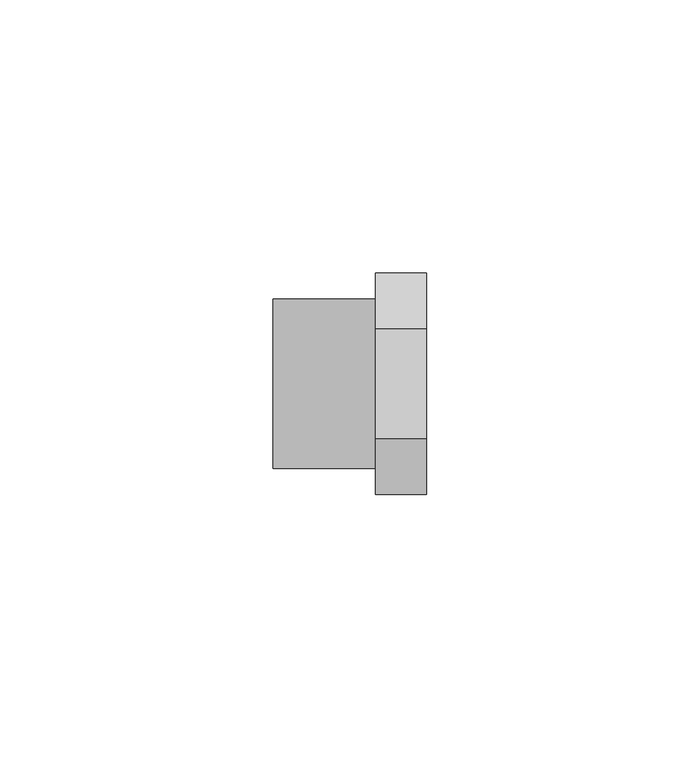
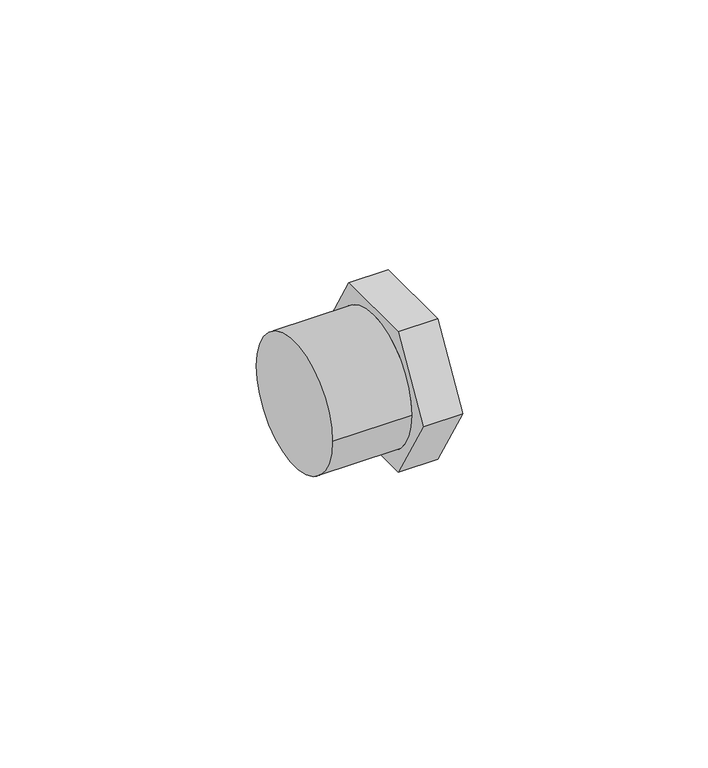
"""IFC4 building model written with IfcOpenShell, lengths in millimetres: pipe fitting geometry, 01011080 : Reducciones curtas M/F."""

import ifcopenshell
import ifcopenshell.guid

model = None  # the IFC model being written
_history = None  # IfcOwnerHistory: only IFC2X3 demands one
_inside = {}  # id of a spatial element -> (the spatial element, [elements in it])
_under = {}  # id of a project, library or spatial element -> (it, [spatial elements below it])
_declared = {}  # id of a project -> (the project, [libraries it declares])
_typed = {}  # id of a type object -> (the type object, [elements of that type])
_made_of = {}  # id of a material, layer set ... -> (it, [elements and type objects made of it])


def new_model(schema):
    """Start an empty IFC model of exactly this schema.

    Asked for "IFC4X3", IfcOpenShell would pick the latest addendum, in which some entities
    have other attributes; the version numbers below select the first issue.
    IFC2X3 requires an IfcOwnerHistory on every rooted entity: one is made here for all.
    """
    global model, _history
    if schema == "IFC4X3":
        model = ifcopenshell.file(schema_version=(4, 3, 0, 0))
    else:
        model = ifcopenshell.file(schema=schema)
    _inside.clear()
    _under.clear()
    _declared.clear()
    _typed.clear()
    _made_of.clear()
    _history = None
    if model.schema == "IFC2X3":
        org = make("IfcOrganization", Name="unknown")
        user = make(
            "IfcPersonAndOrganization",
            ThePerson=make("IfcPerson", FamilyName="unknown"),
            TheOrganization=org,
        )
        app = make(
            "IfcApplication",
            ApplicationDeveloper=org,
            Version="unknown",
            ApplicationFullName="unknown",
            ApplicationIdentifier="unknown",
        )
        _history = make(
            "IfcOwnerHistory",
            OwningUser=user,
            OwningApplication=app,
            ChangeAction="ADDED",
            CreationDate=0,
        )
    return model


def make(cls, **values):
    """One entity of the class cls with the attributes given. An attribute that is None is left unset."""
    return model.create_entity(
        cls, **{name: value for name, value in values.items() if value is not None}
    )


def rooted(cls, **values):
    """An entity with a GlobalId (a new one), such as an element, a storey or a relation."""
    return make(cls, GlobalId=ifcopenshell.guid.new(), OwnerHistory=_history, **values)


def si_unit(unit_type, name, prefix=None):
    """IfcSIUnit, for example si_unit("LENGTHUNIT", "METRE", prefix="MILLI")."""
    return make("IfcSIUnit", UnitType=unit_type, Prefix=prefix, Name=name)


def assignment(units):
    """IfcUnitAssignment: the units of a project."""
    return None if units is None else make("IfcUnitAssignment", Units=units)


def point(xyz):
    """IfcCartesianPoint."""
    return None if xyz is None else make("IfcCartesianPoint", Coordinates=xyz)


def direction(xyz):
    """IfcDirection."""
    return None if xyz is None else make("IfcDirection", DirectionRatios=xyz)


def frame(location, z_axis=None, x_axis=None):
    """IfcAxis2Placement3D, a coordinate frame: its origin and axes. An axis left out is left unset."""
    return make(
        "IfcAxis2Placement3D",
        Location=point(location),
        Axis=direction(z_axis),
        RefDirection=direction(x_axis),
    )


def frame_2d(location, x_axis=None):
    """IfcAxis2Placement2D, a coordinate frame in the plane: its origin and x axis."""
    return make(
        "IfcAxis2Placement2D", Location=point(location), RefDirection=direction(x_axis)
    )


def origin():
    """The frame at (0, 0, 0) with its axes left unset."""
    return frame((0.0, 0.0, 0.0))


def origin_2d():
    """The frame at (0, 0) in the plane with its x axis left unset."""
    return frame_2d((0.0, 0.0))


def place(relative_to, where):
    """IfcLocalPlacement: puts the frame where relative to a parent placement (None: the world)."""
    return make(
        "IfcLocalPlacement", PlacementRelTo=relative_to, RelativePlacement=where
    )


def context(
    kind, dimensions, precision=None, world=None, true_north=None, identifier=None
):
    """IfcGeometricRepresentationContext, for example the 3D "Model" context."""
    return make(
        "IfcGeometricRepresentationContext",
        ContextIdentifier=identifier,
        ContextType=kind,
        CoordinateSpaceDimension=dimensions,
        Precision=precision,
        WorldCoordinateSystem=world,
        TrueNorth=true_north,
    )


def project(units=None, contexts=None):
    """IfcProject with its units and contexts."""
    return rooted(
        "IfcProject",
        Name="project",
        RepresentationContexts=contexts,
        UnitsInContext=assignment(units),
    )


def spatial(cls, under=None, at=None, **own):
    """A site, building, storey or space (cls), placed at a placement, below another one or the project."""
    s = rooted(cls, ObjectPlacement=at, **own)
    if under is not None:
        _under.setdefault(under.id(), (under, []))[1].append(s)
    return s


def circle_curve(where, radius):
    """IfcCircle in the frame where."""
    return make("IfcCircle", Position=where, Radius=radius)


def trimmed(basis, trim1, trim2, sense, master):
    """IfcTrimmedCurve: the piece of a basis curve between two trims."""
    return make(
        "IfcTrimmedCurve",
        BasisCurve=basis,
        Trim1=trim1,
        Trim2=trim2,
        SenseAgreement=sense,
        MasterRepresentation=master,
    )


def segment(curve, same_sense, transition):
    """IfcCompositeCurveSegment."""
    return make(
        "IfcCompositeCurveSegment",
        Transition=transition,
        SameSense=same_sense,
        ParentCurve=curve,
    )


def composite_curve(segments, self_intersect=None):
    """IfcCompositeCurve: segments joined end to end."""
    return make("IfcCompositeCurve", Segments=segments, SelfIntersect=self_intersect)


def outline(outer, holes=None, kind="AREA"):
    """IfcArbitraryClosedProfileDef: a profile drawn as a closed curve; with holes, ...WithVoids."""
    if holes is None:
        return make("IfcArbitraryClosedProfileDef", ProfileType=kind, OuterCurve=outer)
    return make(
        "IfcArbitraryProfileDefWithVoids",
        ProfileType=kind,
        OuterCurve=outer,
        InnerCurves=holes,
    )


def extrude(swept, where, along, depth):
    """IfcExtrudedAreaSolid: the profile swept, set in the frame where, extruded along a direction by depth."""
    return make(
        "IfcExtrudedAreaSolid",
        SweptArea=swept,
        Position=where,
        ExtrudedDirection=direction(along),
        Depth=depth,
    )


def shape(context_of_items, identifier, shape_type, items):
    """IfcShapeRepresentation: the items that make up one representation, for example the "Body"."""
    return make(
        "IfcShapeRepresentation",
        ContextOfItems=context_of_items,
        RepresentationIdentifier=identifier,
        RepresentationType=shape_type,
        Items=items,
    )


def source(mapping_origin, context_of_items, identifier, shape_type, items):
    """IfcRepresentationMap: a shape defined once, which mapped items show again and again."""
    return make(
        "IfcRepresentationMap",
        MappingOrigin=mapping_origin,
        MappedRepresentation=shape(context_of_items, identifier, shape_type, items),
    )


def transform(
    local_origin,
    x_axis=None,
    y_axis=None,
    z_axis=None,
    scale=None,
    scale2=None,
    scale3=None,
    uniform=True,
):
    """IfcCartesianTransformationOperator3D, or its non-uniform kind. x_axis, y_axis, z_axis: its Axis1, 2, 3."""
    if uniform:
        return make(
            "IfcCartesianTransformationOperator3D",
            Axis1=direction(x_axis),
            Axis2=direction(y_axis),
            LocalOrigin=point(local_origin),
            Scale=scale,
            Axis3=direction(z_axis),
        )
    return make(
        "IfcCartesianTransformationOperator3DnonUniform",
        Axis1=direction(x_axis),
        Axis2=direction(y_axis),
        LocalOrigin=point(local_origin),
        Scale=scale,
        Axis3=direction(z_axis),
        Scale2=scale2,
        Scale3=scale3,
    )


def mapped(mapping_source, mapping_target):
    """IfcMappedItem: shows the shape of a source again, moved by a transform."""
    return make(
        "IfcMappedItem", MappingSource=mapping_source, MappingTarget=mapping_target
    )


def made_of(thing, what):
    """Note that an element or type object is made of a material, layer set ...; save() writes the relation."""
    if what is not None:
        _made_of.setdefault(what.id(), (what, []))[1].append(thing)
    return thing


def element(
    cls,
    number,
    at=None,
    inside=None,
    cuts=None,
    type_object=None,
    material=None,
    context=None,
    identifier="Body",
    shape_type=None,
    held_by="IfcProductDefinitionShape",
    body=None,
    shapes=None,
    **own,
):
    """One element of the class cls, such as IfcWall. Its Tag is "e" and its number.

    at: its placement. inside: the storey or other place that contains it. cuts: it is an
    opening in that element (IfcRelVoidsElement). A single representation is given by context,
    identifier, shape_type and body (its items); several are given by shapes. held_by: the class
    of the entity that holds the representations. save() writes the other relations.
    """
    e = rooted(cls, Tag="e%d" % number, ObjectPlacement=at, **own)
    if body is not None:
        shapes = [shape(context, identifier, shape_type, body)]
    if shapes is not None:
        e.Representation = make(held_by, Representations=shapes)
    if inside is not None:
        _inside.setdefault(inside.id(), (inside, []))[1].append(e)
    if cuts is not None:
        rooted(
            "IfcRelVoidsElement", RelatingBuildingElement=cuts, RelatedOpeningElement=e
        )
    if type_object is not None:
        _typed.setdefault(type_object.id(), (type_object, []))[1].append(e)
    return made_of(e, material)


def aggregate(whole, parts):
    """IfcRelAggregates: a whole, such as a stair, and the parts it consists of."""
    return rooted("IfcRelAggregates", RelatingObject=whole, RelatedObjects=parts)


def save(model, path):
    """Write the relations noted so far, then the file.

    IfcRelAggregates (storeys below a building ...), IfcRelContainedInSpatialStructure (elements
    in a storey), IfcRelDefinesByType, IfcRelAssociatesMaterial and IfcRelDeclares: one each for
    every whole, place, type object, material and project.
    """
    for whole, parts in _under.values():
        aggregate(whole, parts)
    for where, things in _inside.values():
        rooted(
            "IfcRelContainedInSpatialStructure",
            RelatedElements=things,
            RelatingStructure=where,
        )
    for kind, things in _typed.values():
        rooted("IfcRelDefinesByType", RelatedObjects=things, RelatingType=kind)
    for what, things in _made_of.values():
        rooted("IfcRelAssociatesMaterial", RelatedObjects=things, RelatingMaterial=what)
    for by, libraries in _declared.values():
        rooted("IfcRelDeclares", RelatingContext=by, RelatedDefinitions=libraries)
    model.write(path)


def plane_surface(at):
    """IfcPlane: the flat surface through the origin of the frame at, square to its z axis."""
    return make("IfcPlane", Position=at)


def cylinder_surface(at, radius):
    """IfcCylindricalSurface: all points at the distance radius from the z axis of the frame at."""
    return make("IfcCylindricalSurface", Position=at, Radius=radius)


def advanced_brep(points, edges, surfaces, faces):
    """IfcAdvancedBrep: a solid bounded by faces that lie on surfaces and meet in shared edges.

    An edge is (start, end): straight between two places in points (the first is 0);
    or (start, end, curve); or (start, end, curve, False) where it runs against its curve.
    A face is (place in surfaces, loops), or (place, loops, False) where it looks against
    its surface's normal. A loop lists edges by number (the first is 1), with a minus sign
    where the edge is run from its end to its start. The first loop is the outer one.
    """
    corners = [point(p) for p in points]
    vertices = [make("IfcVertexPoint", VertexGeometry=c) for c in corners]
    made = []
    for start, end, *more in edges:
        made.append(
            make(
                "IfcEdgeCurve",
                EdgeStart=vertices[start],
                EdgeEnd=vertices[end],
                EdgeGeometry=more[0] if more else make("IfcPolyline", Points=[corners[start], corners[end]]),
                SameSense=more[1] if len(more) > 1 else True,
            )
        )
    hull = []
    for where, loops, *sense in faces:
        bounds = []
        for j, loop in enumerate(loops):
            ring = [make("IfcOrientedEdge", EdgeElement=made[abs(k) - 1], Orientation=k > 0) for k in loop]
            bounds.append(
                make(
                    "IfcFaceOuterBound" if j == 0 else "IfcFaceBound",
                    Bound=make("IfcEdgeLoop", EdgeList=ring),
                    Orientation=True,
                )
            )
        hull.append(make("IfcAdvancedFace", Bounds=bounds, FaceSurface=surfaces[where], SameSense=sense[0] if sense else True))
    return make("IfcAdvancedBrep", Outer=make("IfcClosedShell", CfsFaces=hull))


def pipe_fitting_3570de9f(model_context):
    return source(origin(), model_context, "Body", "SolidModel", [
        extrude(outline(composite_curve([segment(trimmed(circle_curve(origin_2d(), 15.525), [point((-15.525, 0.0))], [point((15.525, 0.0))], False, "CARTESIAN"), True, "CONTINUOUS"), segment(trimmed(circle_curve(origin_2d(), 15.525), [point((15.525, 0.0))], [point((-15.525, 0.0))], False, "CARTESIAN"), True, "CONTINUOUS")], self_intersect=False)), frame((0.0, 0.0, 0.0), z_axis=(1.0, 0.0, 0.0), x_axis=(0.0, 1.0, 0.0)), (0.0, 0.0, 1.0), 18.6666667),
        advanced_brep(
        [(28.0, -10.1036297, 17.5), (28.0, -20.2072594, 0.0), (28.0, -10.1036297, -17.5), (28.0, 10.1036297, -17.5), (28.0, 20.2072594, 0.0), (28.0, 10.1036297, 17.5), (18.6666667, -10.1036297, 17.5), (18.6666667, 10.1036297, 17.5), (18.6666667, 20.2072594, 0.0), (18.6666667, 10.1036297, -17.5), (18.6666667, -10.1036297, -17.5), (18.6666667, -20.2072594, 0.0), (18.6666667, 15.525, 0.0), (18.6666667, -15.525, 0.0), (0.0, 15.525, 0.0), (0.0, -15.525, 0.0)],
        [
            (0, 1),
            (1, 2),
            (2, 3),
            (3, 4),
            (4, 5),
            (5, 0),
            (6, 7),
            (7, 8),
            (8, 9),
            (9, 10),
            (10, 11),
            (11, 6),
            (12, 13, circle_curve(frame((18.6666667, 0.0, 0.0), z_axis=(1.0, 0.0, 0.0), x_axis=(0.0, 1.0, 0.0)), 15.525)),
            (13, 12, circle_curve(frame((18.6666667, 0.0, 0.0), z_axis=(1.0, 0.0, 0.0), x_axis=(0.0, 1.0, 0.0)), 15.525)),
            (0, 6),
            (11, 1),
            (10, 2),
            (9, 3),
            (8, 4),
            (7, 5),
            (14, 15, circle_curve(frame((0.0, 0.0, 0.0), z_axis=(1.0, 0.0, 0.0), x_axis=(0.0, 1.0, 0.0)), 15.525)),
            (15, 13),
            (12, 14),
            (15, 14, circle_curve(frame((0.0, 0.0, 0.0), z_axis=(1.0, 0.0, 0.0), x_axis=(0.0, 1.0, 0.0)), 15.525)),
        ],
        [
            plane_surface(frame((28.0, -10.1036297, 17.5), z_axis=(1.0, 0.0, 0.0), x_axis=(0.0, -0.5000000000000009, -0.8660254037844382))),
            plane_surface(frame((18.6666667, -10.1036297, 17.5), z_axis=(-1.0, 0.0, 0.0), x_axis=(0.0, 0.5000000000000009, 0.8660254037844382))),
            plane_surface(frame((28.0, -10.1036297, 17.5), z_axis=(0.0, -0.8660254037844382, 0.5000000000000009), x_axis=(-1.0, 0.0, 0.0))),
            plane_surface(frame((28.0, -20.2072594, 0.0), z_axis=(0.0, -0.866025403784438, -0.500000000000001), x_axis=(-1.0, 0.0, 0.0))),
            plane_surface(frame((28.0, -10.1036297, -17.5), z_axis=(0.0, 0.0, -1.0), x_axis=(-1.0, 0.0, 0.0))),
            plane_surface(frame((28.0, 10.1036297, -17.5), z_axis=(0.0, 0.8660254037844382, -0.5000000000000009), x_axis=(-1.0, 0.0, 0.0))),
            plane_surface(frame((28.0, 20.2072594, 0.0), z_axis=(0.0, 0.866025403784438, 0.500000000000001), x_axis=(-1.0, 0.0, 0.0))),
            plane_surface(frame((28.0, 10.1036297, 17.5), z_axis=(0.0, 0.0, 1.0), x_axis=(-1.0, 0.0, 0.0))),
            cylinder_surface(frame((0.0, 0.0, 0.0), z_axis=(-1.0, 0.0, 0.0), x_axis=(0.0, 1.0, 0.0)), 15.525),
            plane_surface(frame((0.0, 0.0, 0.0), z_axis=(-1.0, 0.0, 0.0), x_axis=(0.0, 0.0, 1.0))),
        ],
        [
            (0, [[1, 2, 3, 4, 5, 6]]),
            (1, [[7, 8, 9, 10, 11, 12], [13, 14]]),
            (2, [[-1, 15, -12, 16]]),
            (3, [[-2, -16, -11, 17]]),
            (4, [[-3, -17, -10, 18]]),
            (5, [[-4, -18, -9, 19]]),
            (6, [[-5, -19, -8, 20]]),
            (7, [[-6, -20, -7, -15]]),
            (8, [[21, 22, -13, 23]]),
            (8, [[24, -23, -14, -22]]),
            (9, [[-21, -24]]),
        ],
    ),
    ])


if __name__ == "__main__":
    model = new_model("IFC4")
    model_context = context("Model", 3, world=origin())
    ifc_project = project(units=[si_unit("LENGTHUNIT", "METRE", prefix="MILLI")], contexts=[model_context])
    site = spatial("IfcSite", under=ifc_project)
    building = spatial("IfcBuilding", under=site)
    placement = place(None, origin())
    pipe_fitting_shape = pipe_fitting_3570de9f(model_context)
    element("IfcPipeFitting", 1, ObjectType="01011080 : Reducciones curtas M/F", at=placement, inside=building, context=model_context, shape_type="MappedRepresentation", body=[
        mapped(pipe_fitting_shape, transform((0.0, 0.0, 0.0), x_axis=(1.0, 0.0, 0.0), y_axis=(0.0, 1.0, 0.0), z_axis=(0.0, 0.0, 1.0))),
    ])
    save(model, "model.ifc")
